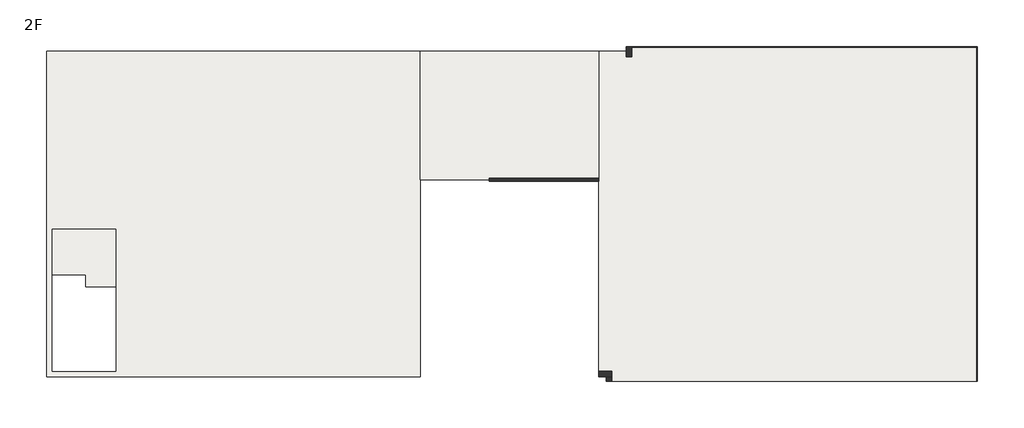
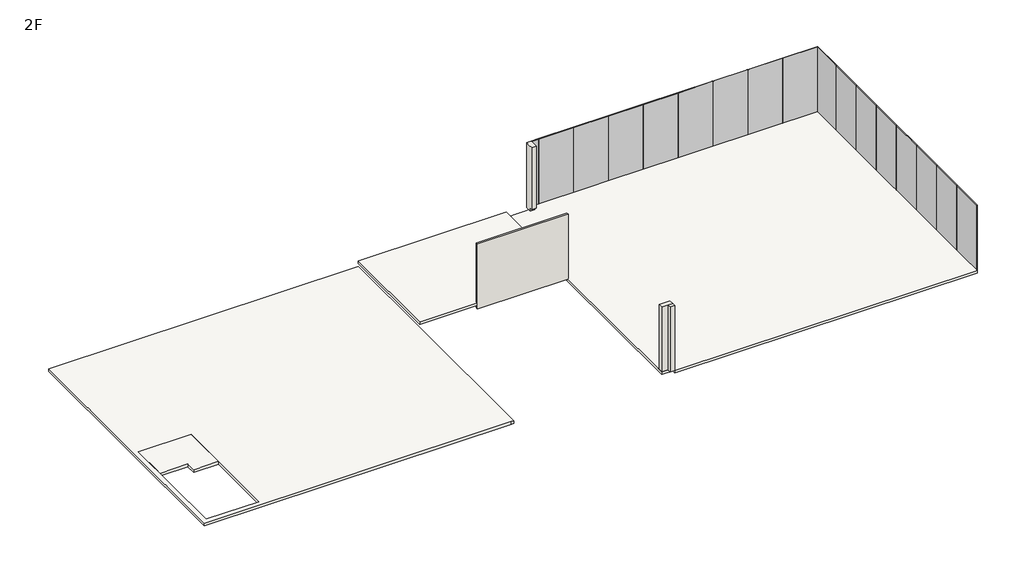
# One storey: 17 plates, 4 walls, 3 slabs.
"""IFC4 building model written with IfcOpenShell, lengths in millimetres."""

from ifc_helpers import new_model, si_unit, frame, origin, place, context, project, spatial, polyline, outline, extrude, faceted_brep, transform, mapped, element, save
from components import plate_ae86cf34, plate_90c15c1a, plate_86659188

model = new_model("IFC4")

# Units and contexts
model_context = context("Model", 3, world=origin())
ifc_project = project(units=[si_unit("LENGTHUNIT", "METRE", prefix="MILLI")], contexts=[model_context])

# Site, building, storey
site = spatial("IfcSite", under=ifc_project)
building = spatial("IfcBuilding", under=site)
storey = spatial("IfcBuildingStorey", under=building, Name="2F", Elevation=4500.0)

# Plates
placement = place(None, origin())
plate_shape = plate_ae86cf34(model_context)
element("IfcPlate", 1, ObjectType="系统嵌板 : 玻璃", at=placement, inside=storey, context=model_context, shape_type="MappedRepresentation", body=[
    mapped(plate_shape, transform((30657.0620884, 9088.8697102, 4500.0), x_axis=(-1.0, 0.0, 0.0), y_axis=(0.0, -1.0, 0.0), z_axis=(0.0, 0.0, 1.0))),
])
element("IfcPlate", 2, ObjectType="系统嵌板 : 玻璃", at=placement, inside=storey, context=model_context, shape_type="MappedRepresentation", body=[
    mapped(plate_shape, transform((28827.0620884, 9088.8697102, 4500.0), x_axis=(-1.0, 0.0, 0.0), y_axis=(0.0, -1.0, 0.0), z_axis=(0.0, 0.0, 1.0))),
])
element("IfcPlate", 3, ObjectType="系统嵌板 : 玻璃", at=placement, inside=storey, context=model_context, shape_type="MappedRepresentation", body=[
    mapped(plate_shape, transform((26997.0620884, 9088.8697102, 4500.0), x_axis=(-1.0, 0.0, 0.0), y_axis=(0.0, -1.0, 0.0), z_axis=(0.0, 0.0, 1.0))),
])
element("IfcPlate", 4, ObjectType="系统嵌板 : 玻璃", at=placement, inside=storey, context=model_context, shape_type="MappedRepresentation", body=[
    mapped(plate_shape, transform((25167.0620884, 9088.8697102, 4500.0), x_axis=(-1.0, 0.0, 0.0), y_axis=(0.0, -1.0, 0.0), z_axis=(0.0, 0.0, 1.0))),
])
element("IfcPlate", 5, ObjectType="系统嵌板 : 玻璃", at=placement, inside=storey, context=model_context, shape_type="MappedRepresentation", body=[
    mapped(plate_shape, transform((23337.0620884, 9088.8697102, 4500.0), x_axis=(-1.0, 0.0, 0.0), y_axis=(0.0, -1.0, 0.0), z_axis=(0.0, 0.0, 1.0))),
])
element("IfcPlate", 6, ObjectType="系统嵌板 : 玻璃", at=placement, inside=storey, context=model_context, shape_type="MappedRepresentation", body=[
    mapped(plate_shape, transform((21507.0620884, 9088.8697102, 4500.0), x_axis=(-1.0, 0.0, 0.0), y_axis=(0.0, -1.0, 0.0), z_axis=(0.0, 0.0, 1.0))),
])
element("IfcPlate", 7, ObjectType="系统嵌板 : 玻璃", at=placement, inside=storey, context=model_context, shape_type="MappedRepresentation", body=[
    mapped(plate_shape, transform((19677.0620884, 9088.8697102, 4500.0), x_axis=(-1.0, 0.0, 0.0), y_axis=(0.0, -1.0, 0.0), z_axis=(0.0, 0.0, 1.0))),
])
element("IfcPlate", 8, ObjectType="系统嵌板 : 玻璃", at=placement, inside=storey, context=model_context, shape_type="MappedRepresentation", body=[
    mapped(plate_shape, transform((17847.0620884, 9088.8697102, 4500.0), x_axis=(-1.0, 0.0, 0.0), y_axis=(0.0, -1.0, 0.0), z_axis=(0.0, 0.0, 1.0))),
])
element("IfcPlate", 9, ObjectType="系统嵌板 : 玻璃", at=placement, inside=storey, context=model_context, shape_type="MappedRepresentation", body=[
    mapped(plate_shape, transform((31572.0620884, -4523.6302898, 4500.0), x_axis=(0.0, 1.0, 0.0), y_axis=(-1.0, 0.0, 0.0), z_axis=(0.0, 0.0, 1.0))),
])
element("IfcPlate", 10, ObjectType="系统嵌板 : 玻璃", at=placement, inside=storey, context=model_context, shape_type="MappedRepresentation", body=[
    mapped(plate_shape, transform((31572.0620884, -2693.6302898, 4500.0), x_axis=(0.0, 1.0, 0.0), y_axis=(-1.0, 0.0, 0.0), z_axis=(0.0, 0.0, 1.0))),
])
element("IfcPlate", 11, ObjectType="系统嵌板 : 玻璃", at=placement, inside=storey, context=model_context, shape_type="MappedRepresentation", body=[
    mapped(plate_shape, transform((31572.0620884, -863.6302898, 4500.0), x_axis=(0.0, 1.0, 0.0), y_axis=(-1.0, 0.0, 0.0), z_axis=(0.0, 0.0, 1.0))),
])
element("IfcPlate", 12, ObjectType="系统嵌板 : 玻璃", at=placement, inside=storey, context=model_context, shape_type="MappedRepresentation", body=[
    mapped(plate_shape, transform((31572.0620884, 966.3697102, 4500.0), x_axis=(0.0, 1.0, 0.0), y_axis=(-1.0, 0.0, 0.0), z_axis=(0.0, 0.0, 1.0))),
])
element("IfcPlate", 13, ObjectType="系统嵌板 : 玻璃", at=placement, inside=storey, context=model_context, shape_type="MappedRepresentation", body=[
    mapped(plate_shape, transform((31572.0620884, 2796.3697102, 4500.0), x_axis=(0.0, 1.0, 0.0), y_axis=(-1.0, 0.0, 0.0), z_axis=(0.0, 0.0, 1.0))),
])
element("IfcPlate", 14, ObjectType="系统嵌板 : 玻璃", at=placement, inside=storey, context=model_context, shape_type="MappedRepresentation", body=[
    mapped(plate_shape, transform((31572.0620884, 4626.3697102, 4500.0), x_axis=(0.0, 1.0, 0.0), y_axis=(-1.0, 0.0, 0.0), z_axis=(0.0, 0.0, 1.0))),
])
element("IfcPlate", 15, ObjectType="系统嵌板 : 玻璃", at=placement, inside=storey, context=model_context, shape_type="MappedRepresentation", body=[
    mapped(plate_shape, transform((31572.0620884, 6456.3697102, 4500.0), x_axis=(0.0, 1.0, 0.0), y_axis=(-1.0, 0.0, 0.0), z_axis=(0.0, 0.0, 1.0))),
])
plate_2_shape = plate_90c15c1a(model_context)
element("IfcPlate", 16, ObjectType="系统嵌板 : 玻璃", at=placement, inside=storey, context=model_context, shape_type="MappedRepresentation", body=[
    mapped(plate_2_shape, transform((16745.8120884, 9088.8697102, 4500.0), x_axis=(-1.0, 0.0, 0.0), y_axis=(0.0, -1.0, 0.0), z_axis=(0.0, 0.0, 1.0))),
])
plate_3_shape = plate_86659188(model_context)
element("IfcPlate", 17, ObjectType="系统嵌板 : 玻璃", at=placement, inside=storey, context=model_context, shape_type="MappedRepresentation", body=[
    mapped(plate_3_shape, transform((31572.0620884, 8230.1197102, 4500.0), x_axis=(0.0, 1.0, 0.0), y_axis=(-1.0, 0.0, 0.0), z_axis=(0.0, 0.0, 1.0))),
])

# Slabs
element("IfcSlab", 18, ObjectType="常规 - 150mm", at=placement, inside=storey, context=model_context, shape_type="SweptSolid", body=[
    extrude(outline(polyline([(16559.5620884, 8888.8697102), (16559.5620884, 9088.8697102), (31559.5620884, 9088.8697102), (31559.5620884, -5451.1302898), (15689.5620884, -5451.1302898), (15689.5620884, -5251.1302898), (15119.5620884, -5251.1302898), (15119.5620884, 3308.8697102), (15119.5620884, 8888.8697102), (16559.5620884, 8888.8697102)])), frame((0.0, 0.0, 4350.0), z_axis=(0.0, 0.0, 1.0), x_axis=(1.0, 0.0, 0.0)), (0.0, 0.0, 1.0), 150.0),
    extrude(outline(polyline([(7359.5620884, 3248.8697102), (7359.5620884, -5251.1302898), (7239.5620884, -5251.1302898), (-8880.4379116, -5251.1302898), (-8880.4379116, 8888.8697102), (7359.5620884, 8888.8697102), (7359.5620884, 3248.8697102)]), holes=[polyline([(-5880.4379116, 1148.8697102), (-8640.4379116, 1148.8697102), (-8640.4379116, -5011.1302898), (-5880.4379116, -5011.1302898), (-5880.4379116, 1148.8697102)])]), frame((0.0, 0.0, 4350.0), z_axis=(0.0, 0.0, 1.0), x_axis=(1.0, 0.0, 0.0)), (0.0, 0.0, 1.0), 150.0),
])
element("IfcSlab", 19, ObjectType="常规 - 150mm", at=placement, inside=storey, context=model_context, shape_type="SweptSolid", body=[
    extrude(outline(polyline([(15119.5620884, 3308.8697102), (7359.5620884, 3308.8697102), (7359.5620884, 8888.8697102), (15119.5620884, 8888.8697102), (15119.5620884, 3308.8697102)])), frame((0.0, 0.0, 4650.0), z_axis=(0.0, 0.0, 1.0), x_axis=(1.0, 0.0, 0.0)), (0.0, 0.0, 1.0), 150.0),
])
element("IfcSlab", 20, ObjectType="常规 - 150mm", at=placement, inside=storey, context=model_context, shape_type="SweptSolid", body=[
    extrude(outline(polyline([(-5880.4379116, -1341.1302898), (-7180.4379116, -1341.1302898), (-7180.4379116, -821.1302898), (-8640.4379116, -821.1302898), (-8640.4379116, 1148.8697102), (-5880.4379116, 1148.8697102), (-5880.4379116, -1341.1302898)])), frame((0.0, 0.0, 4350.0), z_axis=(0.0, 0.0, 1.0), x_axis=(1.0, 0.0, 0.0)), (0.0, 0.0, 1.0), 150.0),
])

# Walls
element("IfcWall", 21, ObjectType="常规 - 240mm", at=placement, inside=storey, context=model_context, shape_type="Brep", body=[
    faceted_brep([(15119.5620884, -5251.1302898, 4500.0), (15359.5620884, -5251.1302898, 4500.0), (15449.5620884, -5251.1302898, 4500.0), (15689.5620884, -5251.1302898, 4500.0), (15689.5620884, -5251.1302898, 8100.0), (15449.5620884, -5251.1302898, 8100.0), (15119.5620884, -5251.1302898, 8100.0), (15119.5620884, -5011.1302898, 4500.0), (15119.5620884, -5011.1302898, 8100.0), (15359.5620884, -5011.1302898, 8100.0), (15689.5620884, -5011.1302898, 8100.0), (15689.5620884, -5011.1302898, 4500.0), (15359.5620884, -5011.1302898, 4500.0)], [[[0, 1, 2, 3, 4, 5, 6]], [[7, 8, 9, 10, 11, 12]], [[3, 2, 1, 0, 7, 12, 11]], [[6, 5, 4, 10, 9, 8]], [[0, 6, 8, 7]], [[4, 3, 11, 10]]]),
])
element("IfcWall", 22, ObjectType="常规 - 120mm", at=placement, inside=storey, context=model_context, shape_type="Brep", body=[
    faceted_brep([(15119.5620884, 3368.8697102, 4500.0), (10359.5620884, 3368.8697102, 4500.0), (10359.5620884, 3368.8697102, 8100.0), (15119.5620884, 3368.8697102, 8100.0), (15119.5620884, 3368.8697102, 4650.0), (15119.5620884, 3248.8697102, 4500.0), (15119.5620884, 3248.8697102, 4650.0), (15119.5620884, 3248.8697102, 8100.0), (10359.5620884, 3248.8697102, 8100.0), (10359.5620884, 3248.8697102, 4500.0)], [[[0, 1, 2, 3, 4]], [[5, 6, 7, 8, 9]], [[1, 0, 5, 9]], [[3, 2, 8, 7]], [[0, 4, 3, 7, 6, 5]], [[2, 1, 9, 8]]]),
])
element("IfcWall", 23, ObjectType="常规 - 240mm 2", at=placement, inside=storey, context=model_context, shape_type="SweptSolid", body=[
    extrude(outline(polyline([(15449.5620884, -5451.1302898), (15449.5620884, -5251.1302898), (15689.5620884, -5251.1302898), (15689.5620884, -5451.1302898), (15449.5620884, -5451.1302898)])), frame((0.0, 0.0, 4500.0), z_axis=(0.0, 0.0, 1.0), x_axis=(1.0, 0.0, 0.0)), (0.0, 0.0, 1.0), 3600.0),
])
element("IfcWall", 24, ObjectType="常规 - 240mm", at=placement, inside=storey, context=model_context, shape_type="Brep", body=[
    faceted_brep([(16319.5620884, 9098.1572826, 4500.0), (16319.5620884, 8768.8697102, 4500.0), (16319.5620884, 8768.8697102, 4650.0), (16319.5620884, 8648.8697102, 4650.0), (16319.5620884, 8648.8697102, 8100.0), (16319.5620884, 8888.8697102, 8100.0), (16319.5620884, 9098.1572826, 8100.0), (16559.5620884, 9098.1572826, 4500.0), (16559.5620884, 9098.1572826, 8100.0), (16559.5620884, 8648.8697102, 8100.0), (16559.5620884, 8648.8697102, 4650.0), (16559.5620884, 8768.8697102, 4650.0), (16559.5620884, 8768.8697102, 4500.0)], [[[0, 1, 2, 3, 4, 5, 6]], [[7, 8, 9, 10, 11, 12]], [[1, 0, 7, 12]], [[6, 5, 4, 9, 8]], [[0, 6, 8, 7]], [[2, 1, 12, 11]], [[10, 3, 2, 11]], [[4, 3, 10, 9]]]),
])

save(model, "model.ifc")
